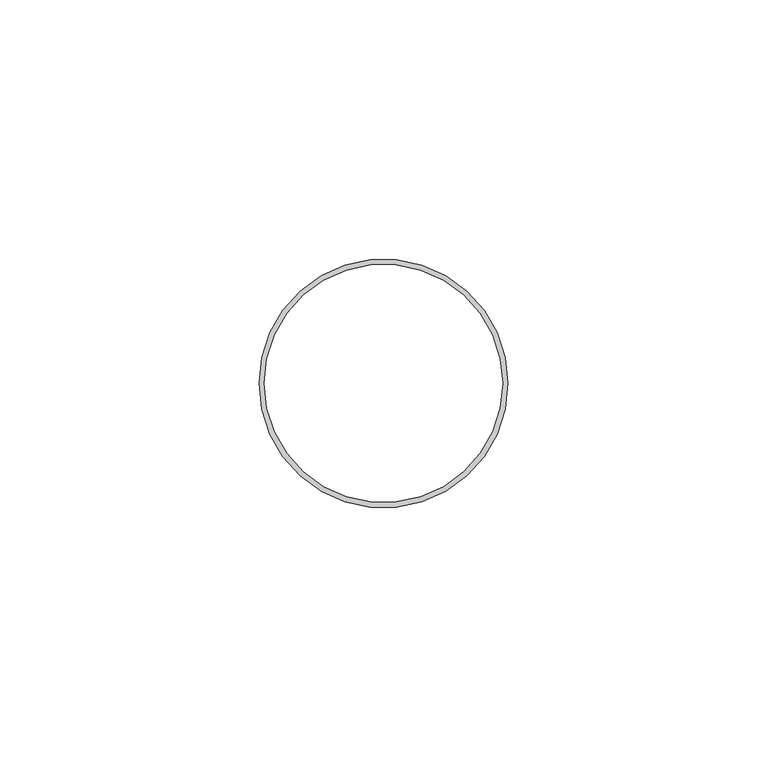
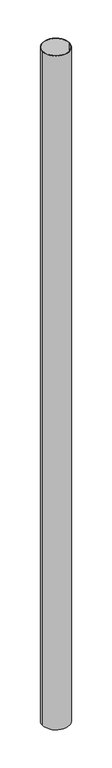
"""IFC4 building model written with IfcOpenShell, lengths in millimetres: proxy geometry, ▲GM_Труба : Тэ048_мм."""

from ifc_helpers import new_model, si_unit, point, frame, origin, origin_2d, place, context, project, spatial, circle_curve, trimmed, segment, composite_curve, outline, extrude, source, transform, mapped, element, save


def generic_models_0aa0c841(model_context):
    return source(origin(), model_context, "Body", "SweptSolid", [
        extrude(outline(composite_curve([segment(trimmed(circle_curve(origin_2d(), 24.0), [point((-24.0, 0.0))], [point((24.0, 0.0))], False, "CARTESIAN"), True, "CONTINUOUS"), segment(trimmed(circle_curve(origin_2d(), 24.0), [point((24.0, 0.0))], [point((-24.0, 0.0))], False, "CARTESIAN"), True, "CONTINUOUS")], self_intersect=False), holes=[composite_curve([segment(trimmed(circle_curve(origin_2d(), 23.0), [point((-23.0, 0.0))], [point((23.0, 0.0))], True, "CARTESIAN"), True, "CONTINUOUS"), segment(trimmed(circle_curve(origin_2d(), 23.0), [point((23.0, 0.0))], [point((-23.0, 0.0))], True, "CARTESIAN"), True, "CONTINUOUS")], self_intersect=False)]), frame((0.0, 0.0, -1200.0), z_axis=(0.0, 0.0, 1.0), x_axis=(1.0, 0.0, 0.0)), (0.0, 0.0, 1.0), 1270.0),
    ])


if __name__ == "__main__":
    model = new_model("IFC4")
    model_context = context("Model", 3, world=origin())
    ifc_project = project(units=[si_unit("LENGTHUNIT", "METRE", prefix="MILLI")], contexts=[model_context])
    site = spatial("IfcSite", under=ifc_project)
    building = spatial("IfcBuilding", under=site)
    placement = place(None, origin())
    generic_models_shape = generic_models_0aa0c841(model_context)
    element("IfcBuildingElementProxy", 1, Name="▲GM_Труба : Тэ048_мм", ObjectType="▲GM_Труба : Тэ048_мм", at=placement, inside=building, context=model_context, shape_type="MappedRepresentation", body=[
        mapped(generic_models_shape, transform((0.0, 0.0, 0.0), x_axis=(1.0, 0.0, 0.0), y_axis=(0.0, 1.0, 0.0), z_axis=(0.0, 0.0, 1.0))),
    ])
    save(model, "model.ifc")
